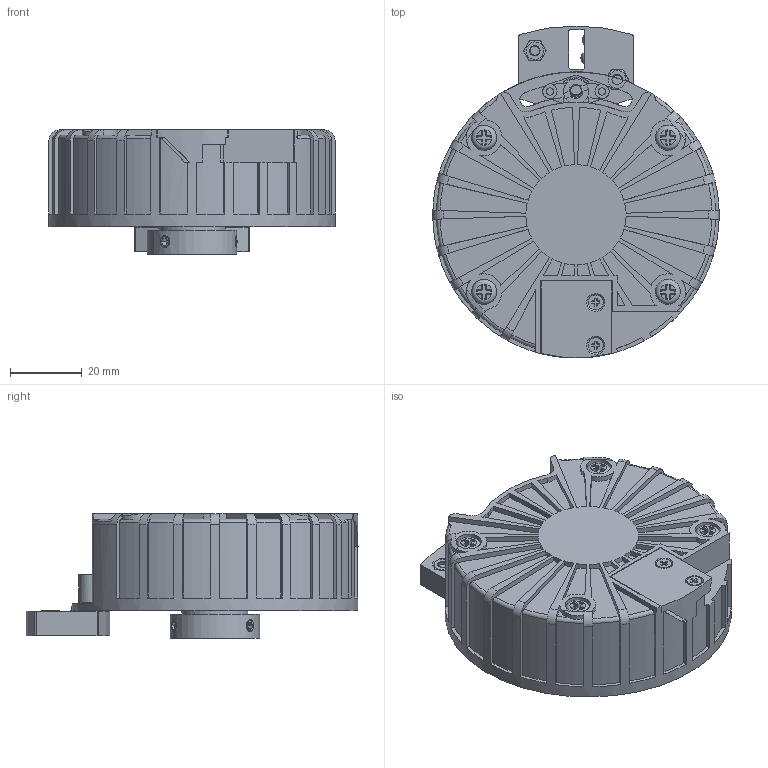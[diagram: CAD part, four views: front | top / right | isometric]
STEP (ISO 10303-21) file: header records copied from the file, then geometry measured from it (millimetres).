
FILE_DESCRIPTION( ( 'Unknown' ), '1' );
FILE_NAME( 'C:/Users/malfermoa/Desktop/step/EH_EF_80C_albero 15.stp', 'Unknown', ( 'Unknown' ), ( 'Unknown' ), 'PSStep 15.0.49', 'Unknown', ' ' );
FILE_SCHEMA( ( 'AUTOMOTIVE_DESIGN { 1 0 10303 214 1 1 1 1 }' ) );
Length unit declared in the file: millimetre
Products named in the file (2): 23300064
Bounding box: 80 x 92.77 x 34.7 mm (x, y, z)
Volume: 50934.4 mm3; surface area: 46816.2 mm2
Topology: 2 solids, 18 shells, 1309 faces, 3279 edges, 2047 vertices
Faces by surface type: plane 926, cylinder 257, cone 39, torus 35, extrusion 26, bspline 20, sphere 6
Full cylindrical faces by diameter (mm): 2 x11, 2.1 x2, 2.5 x8, 3 x6, 3.2 x2, 3.242 x6, 3.3 x1, 4 x1, 4.2 x2, 5.6 x2, 6 x2, 7 x6, 15 x1, 16.8 x1, 17 x1, 18.5 x1, 19.3 x1, 24 x1, 25 x1, 28 x1, 32 x1, 80 x1
Entity records: 62589 total; most frequent: CARTESIAN_POINT 21630, DIRECTION 6265, ORIENTED_EDGE 6182, EDGE_CURVE 3091, VECTOR 2173, LINE 2147, AXIS2_PLACEMENT_3D 2046, VERTEX_POINT 1973
